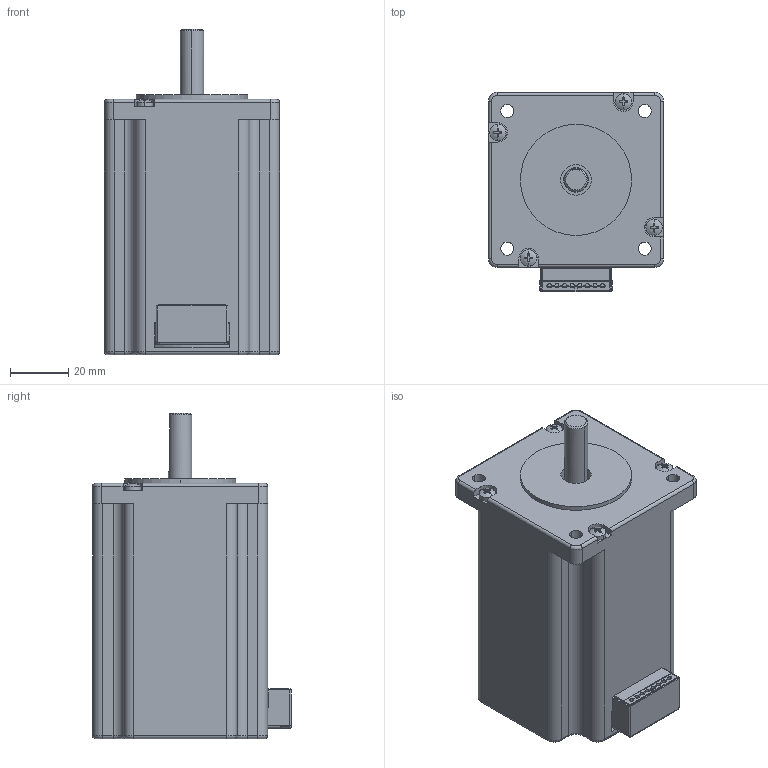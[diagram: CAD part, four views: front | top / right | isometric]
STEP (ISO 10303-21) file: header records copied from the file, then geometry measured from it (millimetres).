
FILE_DESCRIPTION((''),'2;1');
FILE_NAME('3_1_01_060_0456_SW0001','2020-11-27T17:34:26',('guhaibo'),(''),'CREO PARAMETRIC BY PTC INC, 2017110','CREO PARAMETRIC BY PTC INC, 2017110','');
FILE_SCHEMA(('CONFIG_CONTROL_DESIGN'));
Products named in the file (1): 3_1_01_060_0456_SW0001
Bounding box: 60 x 68.15 x 111.5 mm (x, y, z)
Volume: 151089.1 mm3; surface area: 107839.9 mm2
Topology: 1 solids, 8 shells, 2480 faces, 7477 edges, 4835 vertices
Faces by surface type: plane 1659, cylinder 731, torus 50, bspline 18, cone 14, sphere 8
Entity records: 85542 total; most frequent: CARTESIAN_POINT 16669, ORIENTED_EDGE 14954, DIRECTION 14138, EDGE_CURVE 7477, VECTOR 5428, LINE 5428, VERTEX_POINT 4835, AXIS2_PLACEMENT_3D 4355
